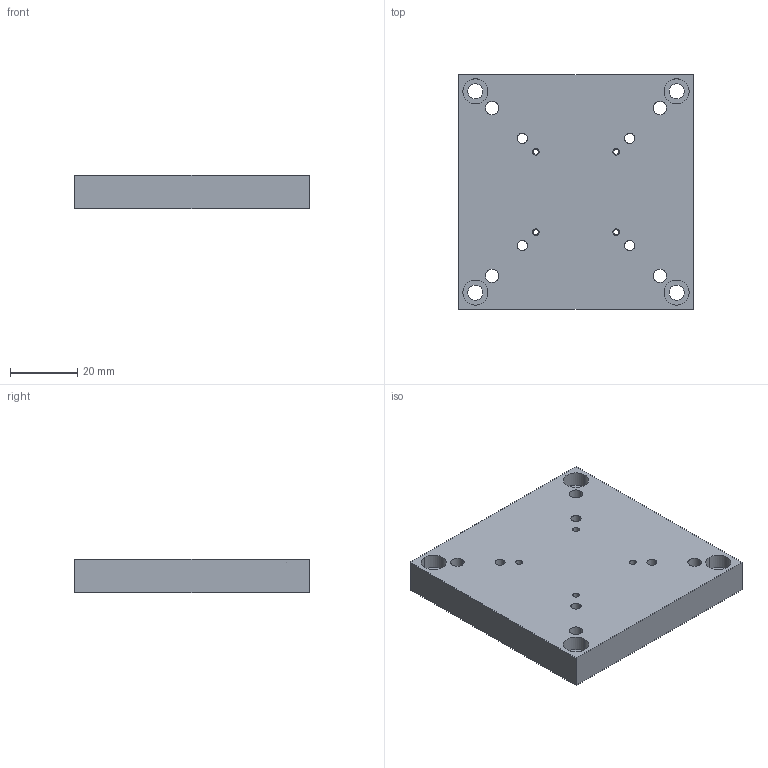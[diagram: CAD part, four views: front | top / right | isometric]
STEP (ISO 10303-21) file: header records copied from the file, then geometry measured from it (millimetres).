
FILE_DESCRIPTION( (''), '2;1');
FILE_NAME ('SPK-07.stp','2020-07-22T08:44:53',(''),(''),'spGate 15.6.6','','');
FILE_SCHEMA (('AUTOMOTIVE_DESIGN'));
Length unit declared in the file: millimetre
Products named in the file (2): Assembly; SPK-07-prt0
Assembly tree (1 placements, depth 2):
  Assembly
    SPK-07-prt0
Bounding box: 70 x 70 x 10 mm (x, y, z)
Volume: 46962.2 mm3; surface area: 14142.2 mm2
Topology: 1 solids, 1 shells, 66 faces, 164 edges, 104 vertices
Faces by surface type: cylinder 48, plane 10, bspline 8
Entity records: 3384 total; most frequent: CARTESIAN_POINT 466, DIRECTION 328, ORIENTED_EDGE 328, COLOUR_RGB 231, PRESENTATION_STYLE_ASSIGNMENT 231, STYLED_ITEM 231, EDGE_CURVE 164, DRAUGHTING_PRE_DEFINED_CURVE_FONT 164
